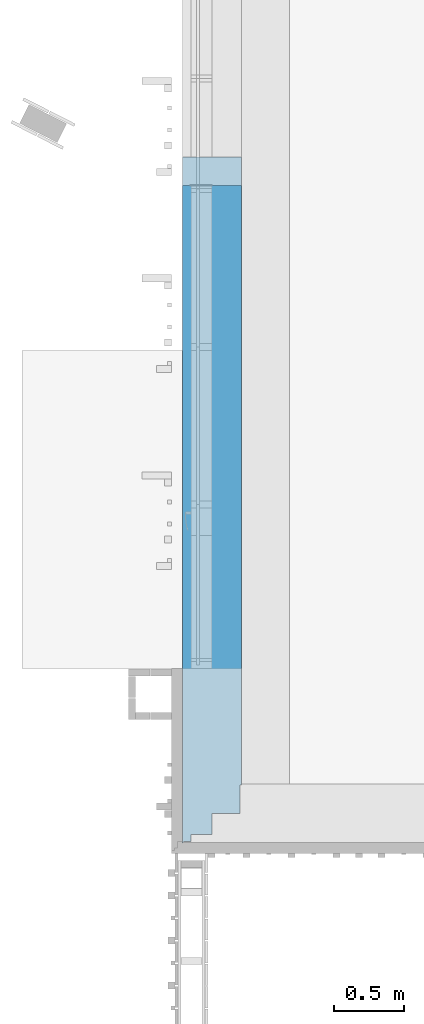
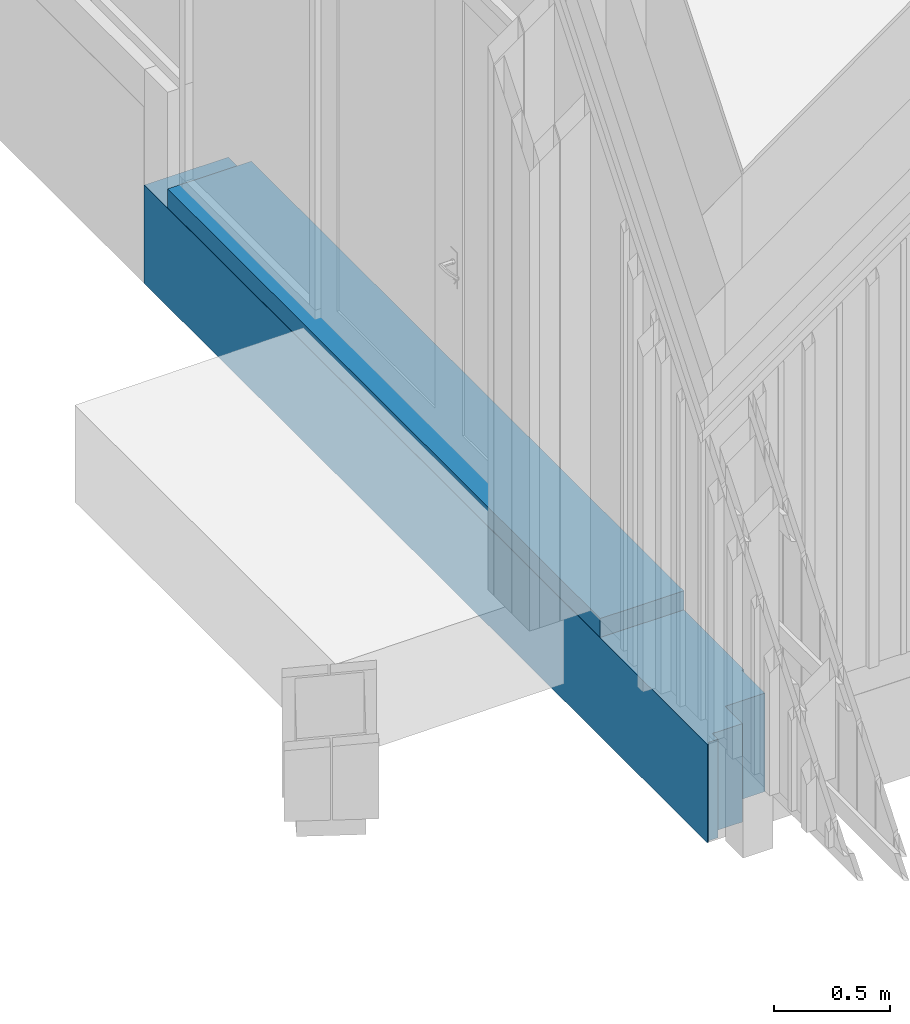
# One storey, part 91 of 390: 2 walls.
"""IFC2X3 building model written with IfcOpenShell, lengths in millimetres."""

from ifc_helpers import new_model, entity, si_unit, converted_unit, derived_unit, money_unit, direction, frame, origin_with_axes, place, context, subcontext, project, spatial, faceted_brep, material, material_list, type_object, element, save


model = new_model("IFC2X3")

# Units and contexts
model_context = context("Model", 3, precision=1e-05, world=origin_with_axes(), true_north=direction((0.0, 1.0)))
body_context = subcontext(model_context, "Body", "Model", "MODEL_VIEW")
ifc_project = project(units=[si_unit("LENGTHUNIT", "METRE", prefix="MILLI"), si_unit("AREAUNIT", "SQUARE_METRE"), si_unit("VOLUMEUNIT", "CUBIC_METRE"), converted_unit("PLANEANGLEUNIT", "DEGREE", entity("IfcPlaneAngleMeasure", 0.0174532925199), si_unit("PLANEANGLEUNIT", "RADIAN"), dimensions=[0, 0, 0, 0, 0, 0, 0]), si_unit("SOLIDANGLEUNIT", "STERADIAN"), money_unit("EUR"), converted_unit("TIMEUNIT", "Year", entity("IfcTimeMeasure", 31556926.0), si_unit("TIMEUNIT", "SECOND"), dimensions=[0, 0, 1, 0, 0, 0, 0]), si_unit("MASSUNIT", "GRAM", prefix="KILO"), si_unit("THERMODYNAMICTEMPERATUREUNIT", "DEGREE_CELSIUS"), si_unit("LUMINOUSINTENSITYUNIT", "LUMEN"), si_unit("ENERGYUNIT", "JOULE", prefix="MEGA"), derived_unit("THERMALCONDUCTANCEUNIT", [(si_unit("POWERUNIT", "WATT"), 1), (si_unit("LENGTHUNIT", "METRE"), -1), (si_unit("THERMODYNAMICTEMPERATUREUNIT", "KELVIN"), -1)]), derived_unit("SPECIFICHEATCAPACITYUNIT", [(si_unit("ENERGYUNIT", "JOULE"), 1), (si_unit("MASSUNIT", "GRAM", prefix="KILO"), -1), (si_unit("THERMODYNAMICTEMPERATUREUNIT", "KELVIN"), -1)]), derived_unit("MASSDENSITYUNIT", [(si_unit("MASSUNIT", "GRAM", prefix="KILO"), 1), (si_unit("VOLUMEUNIT", "CUBIC_METRE"), -1)])], contexts=[model_context])

# Site, building, storey
site_placement = place(None, origin_with_axes())
site = spatial("IfcSite", under=ifc_project, at=site_placement, Name="Site", CompositionType="ELEMENT")
building_placement = place(site_placement, origin_with_axes())
building = spatial("IfcBuilding", under=site, at=building_placement, Name="Building", CompositionType="ELEMENT")
storey_placement = place(building_placement, origin_with_axes())
storey = spatial("IfcBuildingStorey", under=building, at=storey_placement, Name="1 korrus", CompositionType="ELEMENT", Elevation=0.0)

# Walls
ifc_material_1 = material(Name="Membraan - Veekindel")
ifc_material_2 = material(Name="Soojustus - Plastik Kõva")
ifc_material_3 = material(Name="Raudbetoon - Konstruktsioon")
ifc_material_4 = material(Name="Krohv - Lubjakivi")
ifc_material_list_1 = material_list([ifc_material_1, ifc_material_1, ifc_material_2, ifc_material_2, ifc_material_3, ifc_material_4])
wall_type_1 = type_object("IfcWallType", Name="VS-04", PredefinedType="NOTDEFINED")
wall_1_placement = place(storey_placement, frame((122909.999995, 45760.0000092, -620.0), z_axis=(0.0, 0.0, 1.0), x_axis=(0.0, 1.0, 0.0)))
element("IfcWall", 1, at=wall_1_placement, inside=storey, type_object=wall_type_1, material=ifc_material_list_1, Name="VS-03", context=body_context, shape_type="Brep", body=[
    faceted_brep([(4452.5685574, 420.00000006, 0.0), (4452.5685574, 415.00000006, 0.0), (-420.000000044, 414.999999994, 0.0), (-420.000000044, 419.999999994, 0.0), (4452.5685574, 420.00000006, 520.0), (4452.5685574, 415.00000006, 520.0), (-420.000000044, 414.999999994, 520.0), (-420.000000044, 419.999999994, 520.0)], [[[0, 1, 2, 3]], [[0, 4, 5, 1]], [[1, 5, 6, 2]], [[3, 2, 6, 7]], [[4, 0, 3, 7]], [[5, 4, 7, 6]]]),
    faceted_brep([(4452.5685574, 415.00000006, 0.0), (4452.5685574, 410.00000006, 0.0), (-415.000000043, 409.999999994, 0.0), (-415.000000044, 414.999999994, 0.0), (4452.5685574, 415.00000006, 520.0), (4452.5685574, 410.00000006, 520.0), (-415.000000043, 409.999999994, 520.0), (-415.000000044, 414.999999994, 520.0)], [[[0, 1, 2, 3]], [[0, 4, 5, 1]], [[1, 5, 6, 2]], [[3, 2, 6, 7]], [[4, 0, 3, 7]], [[5, 4, 7, 6]]]),
    faceted_brep([(4452.5685574, 410.00000006, 0.0), (4452.5685574, 360.00000006, 0.0), (-410.000000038, 359.999999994, 0.0), (-410.000000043, 409.999999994, 0.0), (4452.5685574, 410.00000006, 520.0), (4452.5685574, 360.00000006, 520.0), (-410.000000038, 359.999999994, 520.0), (-410.000000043, 409.999999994, 520.0)], [[[0, 1, 2, 3]], [[0, 4, 5, 1]], [[1, 5, 6, 2]], [[3, 2, 6, 7]], [[4, 0, 3, 7]], [[5, 4, 7, 6]]]),
    faceted_brep([(4452.5685574, 360.00000006, 0.0), (4452.5685574, 210.00000006, 0.0), (-360.000000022, 209.999999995, 0.0), (-360.000000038, 359.999999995, 0.0), (4452.5685574, 360.00000006, 520.0), (4452.5685574, 210.00000006, 520.0), (-360.000000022, 209.999999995, 520.0), (-360.000000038, 359.999999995, 520.0)], [[[0, 1, 2, 3]], [[0, 4, 5, 1]], [[1, 5, 6, 2]], [[3, 2, 6, 7]], [[4, 0, 3, 7]], [[5, 4, 7, 6]]]),
    faceted_brep([(4452.5685574, 210.00000006, 0.0), (4452.5685574, 10.0000000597, 0.0), (-210.000000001, 9.99999999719, 0.0), (-210.000000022, 209.999999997, 0.0), (4452.5685574, 210.00000006, 520.0), (4452.5685574, 10.0000000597, 520.0), (-210.000000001, 9.99999999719, 520.0), (-210.000000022, 209.999999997, 520.0)], [[[0, 1, 2, 3]], [[0, 4, 5, 1]], [[1, 5, 6, 2]], [[3, 2, 6, 7]], [[4, 0, 3, 7]], [[5, 4, 7, 6]]]),
    faceted_brep([(4452.5685574, 10.0000000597, 0.0), (4452.5685574, 5.97140115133e-08, 0.0), (-10.0, -1.42108547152e-10, 0.0), (-10.000000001, 9.99999999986, 0.0), (4452.5685574, 10.0000000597, 520.0), (4452.5685574, 5.97140115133e-08, 520.0), (-10.0, -1.42108547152e-10, 520.0), (-10.000000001, 9.99999999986, 520.0)], [[[0, 1, 2, 3]], [[0, 4, 5, 1]], [[1, 5, 6, 2]], [[3, 2, 6, 7]], [[4, 0, 3, 7]], [[5, 4, 7, 6]]]),
])
ifc_material_5 = material(Name="Plaat - Sein")
ifc_material_list_2 = material_list([ifc_material_5, ifc_material_2, ifc_material_2, ifc_material_3, ifc_material_4])
wall_type_2 = type_object("IfcWallType", Name="VS-05", PredefinedType="NOTDEFINED")
wall_2_placement = place(storey_placement, frame((122909.999995, 46270.0000098, -100.0), z_axis=(0.0, 0.0, 1.0), x_axis=(0.0, 1.0, 0.0)))
element("IfcWall", 2, at=wall_2_placement, inside=storey, type_object=wall_type_2, material=ifc_material_list_2, Name="VS-05", context=body_context, shape_type="Brep", body=[
    faceted_brep([(3742.56855688, 418.00000005, 0.0), (3742.56855688, 410.00000005, 0.0), (-5.49249534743e-09, 410.0, 0.0), (-5.59907675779e-09, 418.0, 0.0), (3742.56855688, 418.00000005, 99.9997986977), (3742.56855688, 410.00000005, 99.9997986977), (-5.49249534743e-09, 410.0, 99.9997986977), (-5.59907675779e-09, 418.0, 99.9997986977)], [[[0, 1, 2, 3]], [[0, 4, 5, 1]], [[1, 5, 6, 2]], [[3, 2, 6, 7]], [[4, 0, 3, 7]], [[5, 4, 7, 6]]]),
    faceted_brep([(3742.56855688, 410.00000005, 0.0), (3742.56855689, 360.00000005, 0.0), (-4.82458517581e-09, 360.0, 0.0), (-5.49249534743e-09, 410.0, 0.0), (3742.56855688, 410.00000005, 99.9997986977), (3742.56855689, 360.00000005, 99.9997986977), (-4.82458517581e-09, 360.0, 99.9997986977), (-5.49249534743e-09, 410.0, 99.9997986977)], [[[0, 1, 2, 3]], [[0, 4, 5, 1]], [[1, 5, 6, 2]], [[3, 2, 6, 7]], [[4, 0, 3, 7]], [[5, 4, 7, 6]]]),
    faceted_brep([(3742.56855689, 360.00000005, 0.0), (3742.56855689, 210.00000005, 0.0), (-2.81374923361e-09, 210.0, 0.0), (-4.82458517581e-09, 360.0, 0.0), (3742.56855689, 360.00000005, 99.9997986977), (3742.56855689, 210.00000005, 99.9997986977), (-2.81374923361e-09, 210.0, 99.9997986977), (-4.82458517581e-09, 360.0, 99.9997986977)], [[[0, 1, 2, 3]], [[0, 4, 5, 1]], [[1, 5, 6, 2]], [[3, 2, 6, 7]], [[4, 0, 3, 7]], [[5, 4, 7, 6]]]),
    faceted_brep([(3742.56855689, 210.00000005, 0.0), (3742.56855689, 10.0000000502, 0.0), (-1.35003119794e-10, 10.0, 0.0), (-2.81374923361e-09, 210.0, 0.0), (3742.56855689, 210.00000005, 99.9997986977), (3742.56855689, 10.0000000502, 99.9997986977), (-1.35003119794e-10, 10.0, 99.9997986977), (-2.81374923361e-09, 210.0, 99.9997986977)], [[[0, 1, 2, 3]], [[0, 4, 5, 1]], [[1, 5, 6, 2]], [[3, 2, 6, 7]], [[4, 0, 3, 7]], [[5, 4, 7, 6]]]),
    faceted_brep([(3742.56855689, 10.0000000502, 0.0), (3742.56855689, 5.01643171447e-08, 0.0), (0.0, 0.0, 0.0), (-1.35003119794e-10, 10.0, 0.0), (3742.56855689, 10.0000000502, 99.9997986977), (3742.56855689, 5.01643171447e-08, 99.9997986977), (0.0, 0.0, 99.9997986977), (-1.35003119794e-10, 10.0, 99.9997986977)], [[[0, 1, 2, 3]], [[0, 4, 5, 1]], [[1, 5, 6, 2]], [[3, 2, 6, 7]], [[4, 0, 3, 7]], [[5, 4, 7, 6]]]),
])

save(model, "model.ifc")
